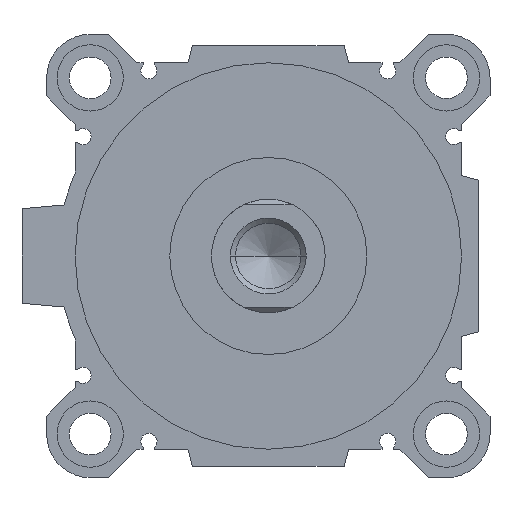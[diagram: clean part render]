
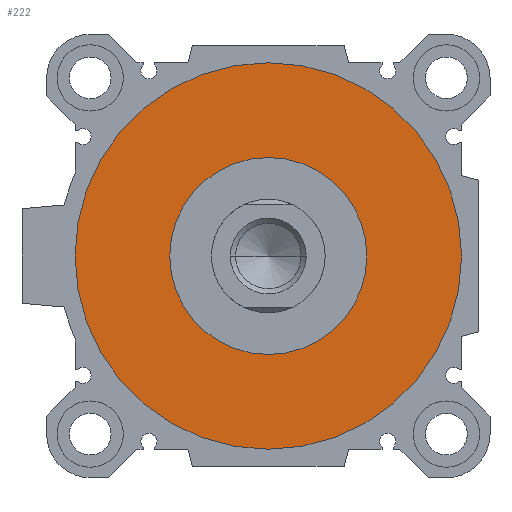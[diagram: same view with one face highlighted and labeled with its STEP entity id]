
A CAD part, left-side view. The second image highlights one B-rep face of the part: STEP entity #222.
In plain terms, the highlighted planar face has unit normal (-1, 0, 0).
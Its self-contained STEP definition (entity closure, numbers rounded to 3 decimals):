
#65 = CARTESIAN_POINT ( 'NONE',  ( 6.5, 0., 0. ) ) ;
#135 = ORIENTED_EDGE ( 'NONE', *, *, #1167, .F. ) ;
#222 = ADVANCED_FACE ( 'NONE', ( #3142, #904 ), #4828, .F. ) ;
#323 = VERTEX_POINT ( 'NONE', #2750 ) ;
#361 = AXIS2_PLACEMENT_3D ( 'NONE', #4644, #3847, #1646 ) ;
#715 = VERTEX_POINT ( 'NONE', #2672 ) ;
#904 = FACE_BOUND ( 'NONE', #4745, .T. ) ;
#1167 = EDGE_CURVE ( 'NONE', #715, #323, #3484, .T. ) ;
#1410 = DIRECTION ( 'NONE',  ( 0., 0., -1. ) ) ;
#1466 = DIRECTION ( 'NONE',  ( 1., 0., 0. ) ) ;
#1583 = CIRCLE ( 'NONE', #2398, 26. ) ;
#1635 = EDGE_LOOP ( 'NONE', ( #3996, #135 ) ) ;
#1646 = DIRECTION ( 'NONE',  ( 0., 0., -1. ) ) ;
#1784 = DIRECTION ( 'NONE',  ( 0., 0., -1. ) ) ;
#1990 = EDGE_CURVE ( 'NONE', #4031, #2451, #3091, .T. ) ;
#2008 = CARTESIAN_POINT ( 'NONE',  ( 6.5, 0., -26. ) ) ;
#2187 = DIRECTION ( 'NONE',  ( 1., 0., 0. ) ) ;
#2217 = DIRECTION ( 'NONE',  ( 1., 0., 0. ) ) ;
#2398 = AXIS2_PLACEMENT_3D ( 'NONE', #4738, #2217, #3560 ) ;
#2451 = VERTEX_POINT ( 'NONE', #2008 ) ;
#2672 = CARTESIAN_POINT ( 'NONE',  ( 6.5, 0., -51. ) ) ;
#2750 = CARTESIAN_POINT ( 'NONE',  ( 6.5, 0., 51. ) ) ;
#2896 = CARTESIAN_POINT ( 'NONE',  ( 6.5, 0., 26. ) ) ;
#2905 = EDGE_CURVE ( 'NONE', #2451, #4031, #1583, .T. ) ;
#3046 = DIRECTION ( 'NONE',  ( 1., 0., 0. ) ) ;
#3091 = CIRCLE ( 'NONE', #5215, 26. ) ;
#3142 = FACE_OUTER_BOUND ( 'NONE', #1635, .T. ) ;
#3432 = DIRECTION ( 'NONE',  ( 0., 1., 0. ) ) ;
#3484 = CIRCLE ( 'NONE', #4274, 51. ) ;
#3560 = DIRECTION ( 'NONE',  ( 0., 0., -1. ) ) ;
#3643 = ORIENTED_EDGE ( 'NONE', *, *, #1990, .T. ) ;
#3847 = DIRECTION ( 'NONE',  ( 1., 0., 0. ) ) ;
#3940 = CARTESIAN_POINT ( 'NONE',  ( 6.5, 0., 0. ) ) ;
#3996 = ORIENTED_EDGE ( 'NONE', *, *, #5495, .F. ) ;
#4031 = VERTEX_POINT ( 'NONE', #2896 ) ;
#4274 = AXIS2_PLACEMENT_3D ( 'NONE', #65, #3046, #1784 ) ;
#4330 = ORIENTED_EDGE ( 'NONE', *, *, #2905, .T. ) ;
#4471 = CARTESIAN_POINT ( 'NONE',  ( 6.5, 0., 0. ) ) ;
#4644 = CARTESIAN_POINT ( 'NONE',  ( 6.5, 0., 0. ) ) ;
#4698 = CIRCLE ( 'NONE', #361, 51. ) ;
#4738 = CARTESIAN_POINT ( 'NONE',  ( 6.5, 0., 0. ) ) ;
#4745 = EDGE_LOOP ( 'NONE', ( #3643, #4330 ) ) ;
#4828 = PLANE ( 'NONE',  #5129 ) ;
#5129 = AXIS2_PLACEMENT_3D ( 'NONE', #3940, #2187, #3432 ) ;
#5215 = AXIS2_PLACEMENT_3D ( 'NONE', #4471, #1466, #1410 ) ;
#5495 = EDGE_CURVE ( 'NONE', #323, #715, #4698, .T. ) ;
